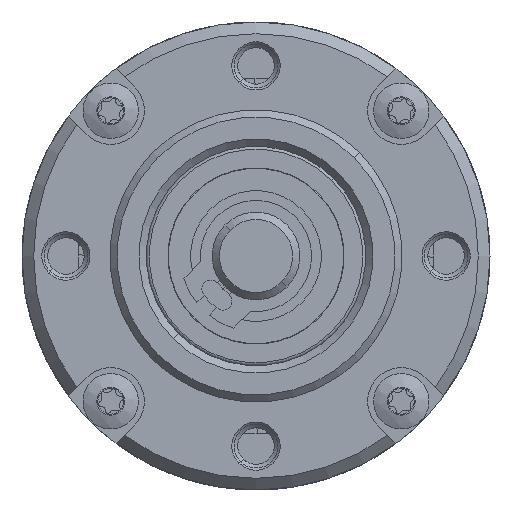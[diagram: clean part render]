
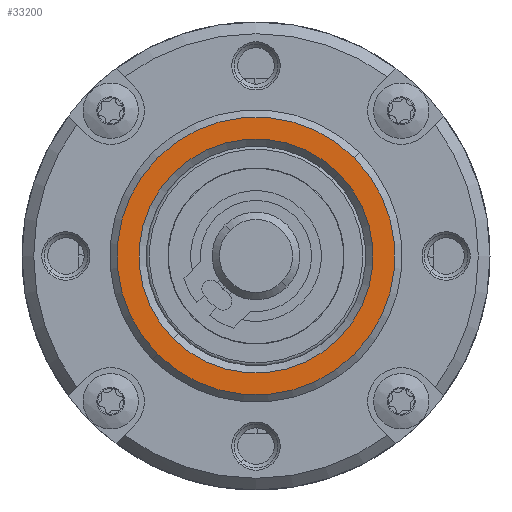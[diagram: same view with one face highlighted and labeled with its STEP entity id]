
A CAD part, left-side view. The second image highlights one B-rep face of the part: STEP entity #33200.
In plain terms, the highlighted planar face has unit normal (-1, 0, 0) as drawn and (1, 0, 0) by its records, which use the part's own axes.
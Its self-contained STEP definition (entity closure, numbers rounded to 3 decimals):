
#10198 = CIRCLE ( 'NONE', #42481, 9.5 ) ;
#10861 = FACE_BOUND ( 'NONE', #33368, .T. ) ;
#11288 = ORIENTED_EDGE ( 'NONE', *, *, #54257, .F. ) ;
#12803 = CARTESIAN_POINT ( 'NONE',  ( 9.5, 0., 0. ) ) ;
#13375 = AXIS2_PLACEMENT_3D ( 'NONE', #26496, #64889, #32149 ) ;
#13404 = ORIENTED_EDGE ( 'NONE', *, *, #39590, .F. ) ;
#13771 = AXIS2_PLACEMENT_3D ( 'NONE', #25112, #63553, #30742 ) ;
#15192 = VERTEX_POINT ( 'NONE', #43439 ) ;
#18402 = DIRECTION ( 'NONE',  ( 0., 0., 1. ) ) ;
#24046 = CIRCLE ( 'NONE', #38861, 8. ) ;
#25112 = CARTESIAN_POINT ( 'NONE',  ( 9.5, 0., 0. ) ) ;
#26496 = CARTESIAN_POINT ( 'NONE',  ( 9.5, 0., 0. ) ) ;
#27039 = CARTESIAN_POINT ( 'NONE',  ( 9.5, 0., 0. ) ) ;
#28352 = EDGE_LOOP ( 'NONE', ( #13404, #11288 ) ) ;
#28909 = EDGE_CURVE ( 'NONE', #15192, #30311, #24046, .T. ) ;
#30311 = VERTEX_POINT ( 'NONE', #49529 ) ;
#30742 = DIRECTION ( 'NONE',  ( 0., 0., -1. ) ) ;
#32149 = DIRECTION ( 'NONE',  ( 0., 0., 1. ) ) ;
#32690 = DIRECTION ( 'NONE',  ( 0., 0., -1. ) ) ;
#32876 = DIRECTION ( 'NONE',  ( 0., 0., -1. ) ) ;
#32937 = DIRECTION ( 'NONE',  ( -1., 0., 0. ) ) ;
#33077 = CARTESIAN_POINT ( 'NONE',  ( 9.5, 0., 0. ) ) ;
#33200 = ADVANCED_FACE ( 'NONE', ( #39086, #10861 ), #59784, .T. ) ;
#33368 = EDGE_LOOP ( 'NONE', ( #52541, #62136 ) ) ;
#37819 = AXIS2_PLACEMENT_3D ( 'NONE', #27039, #65456, #32690 ) ;
#38861 = AXIS2_PLACEMENT_3D ( 'NONE', #33077, #32937, #32876 ) ;
#39086 = FACE_OUTER_BOUND ( 'NONE', #28352, .T. ) ;
#39590 = EDGE_CURVE ( 'NONE', #46992, #63488, #10198, .T. ) ;
#42481 = AXIS2_PLACEMENT_3D ( 'NONE', #12803, #51723, #18402 ) ;
#43439 = CARTESIAN_POINT ( 'NONE',  ( 9.5, 0., -8. ) ) ;
#46992 = VERTEX_POINT ( 'NONE', #65996 ) ;
#47906 = EDGE_CURVE ( 'NONE', #30311, #15192, #61812, .T. ) ;
#49529 = CARTESIAN_POINT ( 'NONE',  ( 9.5, 0., 8. ) ) ;
#51723 = DIRECTION ( 'NONE',  ( -1., 0., 0. ) ) ;
#52541 = ORIENTED_EDGE ( 'NONE', *, *, #28909, .T. ) ;
#54257 = EDGE_CURVE ( 'NONE', #63488, #46992, #54866, .T. ) ;
#54866 = CIRCLE ( 'NONE', #13375, 9.5 ) ;
#59784 = PLANE ( 'NONE',  #37819 ) ;
#61812 = CIRCLE ( 'NONE', #13771, 8. ) ;
#62136 = ORIENTED_EDGE ( 'NONE', *, *, #47906, .T. ) ;
#63045 = CARTESIAN_POINT ( 'NONE',  ( 9.5, 0., -9.5 ) ) ;
#63488 = VERTEX_POINT ( 'NONE', #63045 ) ;
#63553 = DIRECTION ( 'NONE',  ( -1., 0., 0. ) ) ;
#64889 = DIRECTION ( 'NONE',  ( -1., 0., 0. ) ) ;
#65456 = DIRECTION ( 'NONE',  ( 1., 0., 0. ) ) ;
#65996 = CARTESIAN_POINT ( 'NONE',  ( 9.5, 0., 9.5 ) ) ;
